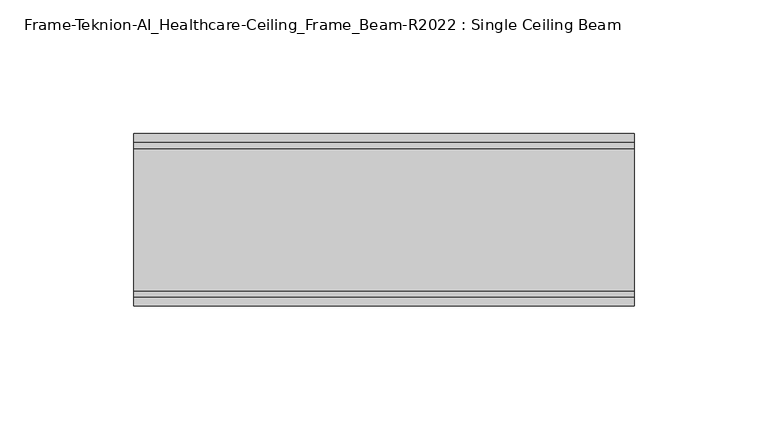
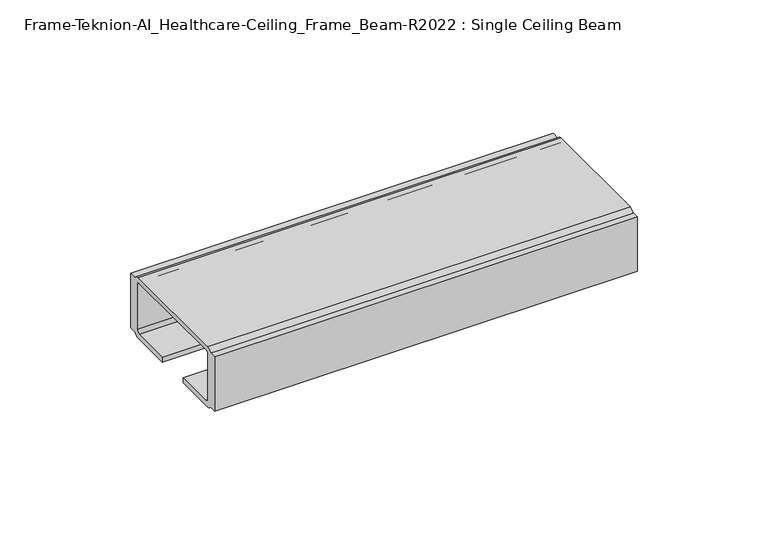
"""IFC4 building model written with IfcOpenShell, lengths in millimetres: furniture geometry, Frame-Teknion-AI_Healthcare-Ceiling_Frame_Beam-R2022 : Single Ceiling Beam."""

import ifcopenshell
import ifcopenshell.guid

model = None  # the IFC model being written
_history = None  # IfcOwnerHistory: only IFC2X3 demands one
_inside = {}  # id of a spatial element -> (the spatial element, [elements in it])
_under = {}  # id of a project, library or spatial element -> (it, [spatial elements below it])
_declared = {}  # id of a project -> (the project, [libraries it declares])
_typed = {}  # id of a type object -> (the type object, [elements of that type])
_made_of = {}  # id of a material, layer set ... -> (it, [elements and type objects made of it])


def new_model(schema):
    """Start an empty IFC model of exactly this schema.

    Asked for "IFC4X3", IfcOpenShell would pick the latest addendum, in which some entities
    have other attributes; the version numbers below select the first issue.
    IFC2X3 requires an IfcOwnerHistory on every rooted entity: one is made here for all.
    """
    global model, _history
    if schema == "IFC4X3":
        model = ifcopenshell.file(schema_version=(4, 3, 0, 0))
    else:
        model = ifcopenshell.file(schema=schema)
    _inside.clear()
    _under.clear()
    _declared.clear()
    _typed.clear()
    _made_of.clear()
    _history = None
    if model.schema == "IFC2X3":
        org = make("IfcOrganization", Name="unknown")
        user = make(
            "IfcPersonAndOrganization",
            ThePerson=make("IfcPerson", FamilyName="unknown"),
            TheOrganization=org,
        )
        app = make(
            "IfcApplication",
            ApplicationDeveloper=org,
            Version="unknown",
            ApplicationFullName="unknown",
            ApplicationIdentifier="unknown",
        )
        _history = make(
            "IfcOwnerHistory",
            OwningUser=user,
            OwningApplication=app,
            ChangeAction="ADDED",
            CreationDate=0,
        )
    return model


def make(cls, **values):
    """One entity of the class cls with the attributes given. An attribute that is None is left unset."""
    return model.create_entity(
        cls, **{name: value for name, value in values.items() if value is not None}
    )


def rooted(cls, **values):
    """An entity with a GlobalId (a new one), such as an element, a storey or a relation."""
    return make(cls, GlobalId=ifcopenshell.guid.new(), OwnerHistory=_history, **values)


def si_unit(unit_type, name, prefix=None):
    """IfcSIUnit, for example si_unit("LENGTHUNIT", "METRE", prefix="MILLI")."""
    return make("IfcSIUnit", UnitType=unit_type, Prefix=prefix, Name=name)


def assignment(units):
    """IfcUnitAssignment: the units of a project."""
    return None if units is None else make("IfcUnitAssignment", Units=units)


def point(xyz):
    """IfcCartesianPoint."""
    return None if xyz is None else make("IfcCartesianPoint", Coordinates=xyz)


def direction(xyz):
    """IfcDirection."""
    return None if xyz is None else make("IfcDirection", DirectionRatios=xyz)


def frame(location, z_axis=None, x_axis=None):
    """IfcAxis2Placement3D, a coordinate frame: its origin and axes. An axis left out is left unset."""
    return make(
        "IfcAxis2Placement3D",
        Location=point(location),
        Axis=direction(z_axis),
        RefDirection=direction(x_axis),
    )


def frame_2d(location, x_axis=None):
    """IfcAxis2Placement2D, a coordinate frame in the plane: its origin and x axis."""
    return make(
        "IfcAxis2Placement2D", Location=point(location), RefDirection=direction(x_axis)
    )


def origin():
    """The frame at (0, 0, 0) with its axes left unset."""
    return frame((0.0, 0.0, 0.0))


def place(relative_to, where):
    """IfcLocalPlacement: puts the frame where relative to a parent placement (None: the world)."""
    return make(
        "IfcLocalPlacement", PlacementRelTo=relative_to, RelativePlacement=where
    )


def context(
    kind, dimensions, precision=None, world=None, true_north=None, identifier=None
):
    """IfcGeometricRepresentationContext, for example the 3D "Model" context."""
    return make(
        "IfcGeometricRepresentationContext",
        ContextIdentifier=identifier,
        ContextType=kind,
        CoordinateSpaceDimension=dimensions,
        Precision=precision,
        WorldCoordinateSystem=world,
        TrueNorth=true_north,
    )


def project(units=None, contexts=None):
    """IfcProject with its units and contexts."""
    return rooted(
        "IfcProject",
        Name="project",
        RepresentationContexts=contexts,
        UnitsInContext=assignment(units),
    )


def spatial(cls, under=None, at=None, **own):
    """A site, building, storey or space (cls), placed at a placement, below another one or the project."""
    s = rooted(cls, ObjectPlacement=at, **own)
    if under is not None:
        _under.setdefault(under.id(), (under, []))[1].append(s)
    return s


def polyline(points):
    """IfcPolyline through the points."""
    return make("IfcPolyline", Points=[point(p) for p in points])


def circle_curve(where, radius):
    """IfcCircle in the frame where."""
    return make("IfcCircle", Position=where, Radius=radius)


def trimmed(basis, trim1, trim2, sense, master):
    """IfcTrimmedCurve: the piece of a basis curve between two trims."""
    return make(
        "IfcTrimmedCurve",
        BasisCurve=basis,
        Trim1=trim1,
        Trim2=trim2,
        SenseAgreement=sense,
        MasterRepresentation=master,
    )


def segment(curve, same_sense, transition):
    """IfcCompositeCurveSegment."""
    return make(
        "IfcCompositeCurveSegment",
        Transition=transition,
        SameSense=same_sense,
        ParentCurve=curve,
    )


def composite_curve(segments, self_intersect=None):
    """IfcCompositeCurve: segments joined end to end."""
    return make("IfcCompositeCurve", Segments=segments, SelfIntersect=self_intersect)


def outline(outer, holes=None, kind="AREA"):
    """IfcArbitraryClosedProfileDef: a profile drawn as a closed curve; with holes, ...WithVoids."""
    if holes is None:
        return make("IfcArbitraryClosedProfileDef", ProfileType=kind, OuterCurve=outer)
    return make(
        "IfcArbitraryProfileDefWithVoids",
        ProfileType=kind,
        OuterCurve=outer,
        InnerCurves=holes,
    )


def extrude(swept, where, along, depth):
    """IfcExtrudedAreaSolid: the profile swept, set in the frame where, extruded along a direction by depth."""
    return make(
        "IfcExtrudedAreaSolid",
        SweptArea=swept,
        Position=where,
        ExtrudedDirection=direction(along),
        Depth=depth,
    )


def shape(context_of_items, identifier, shape_type, items):
    """IfcShapeRepresentation: the items that make up one representation, for example the "Body"."""
    return make(
        "IfcShapeRepresentation",
        ContextOfItems=context_of_items,
        RepresentationIdentifier=identifier,
        RepresentationType=shape_type,
        Items=items,
    )


def source(mapping_origin, context_of_items, identifier, shape_type, items):
    """IfcRepresentationMap: a shape defined once, which mapped items show again and again."""
    return make(
        "IfcRepresentationMap",
        MappingOrigin=mapping_origin,
        MappedRepresentation=shape(context_of_items, identifier, shape_type, items),
    )


def transform(
    local_origin,
    x_axis=None,
    y_axis=None,
    z_axis=None,
    scale=None,
    scale2=None,
    scale3=None,
    uniform=True,
):
    """IfcCartesianTransformationOperator3D, or its non-uniform kind. x_axis, y_axis, z_axis: its Axis1, 2, 3."""
    if uniform:
        return make(
            "IfcCartesianTransformationOperator3D",
            Axis1=direction(x_axis),
            Axis2=direction(y_axis),
            LocalOrigin=point(local_origin),
            Scale=scale,
            Axis3=direction(z_axis),
        )
    return make(
        "IfcCartesianTransformationOperator3DnonUniform",
        Axis1=direction(x_axis),
        Axis2=direction(y_axis),
        LocalOrigin=point(local_origin),
        Scale=scale,
        Axis3=direction(z_axis),
        Scale2=scale2,
        Scale3=scale3,
    )


def mapped(mapping_source, mapping_target):
    """IfcMappedItem: shows the shape of a source again, moved by a transform."""
    return make(
        "IfcMappedItem", MappingSource=mapping_source, MappingTarget=mapping_target
    )


def made_of(thing, what):
    """Note that an element or type object is made of a material, layer set ...; save() writes the relation."""
    if what is not None:
        _made_of.setdefault(what.id(), (what, []))[1].append(thing)
    return thing


def element(
    cls,
    number,
    at=None,
    inside=None,
    cuts=None,
    type_object=None,
    material=None,
    context=None,
    identifier="Body",
    shape_type=None,
    held_by="IfcProductDefinitionShape",
    body=None,
    shapes=None,
    **own,
):
    """One element of the class cls, such as IfcWall. Its Tag is "e" and its number.

    at: its placement. inside: the storey or other place that contains it. cuts: it is an
    opening in that element (IfcRelVoidsElement). A single representation is given by context,
    identifier, shape_type and body (its items); several are given by shapes. held_by: the class
    of the entity that holds the representations. save() writes the other relations.
    """
    e = rooted(cls, Tag="e%d" % number, ObjectPlacement=at, **own)
    if body is not None:
        shapes = [shape(context, identifier, shape_type, body)]
    if shapes is not None:
        e.Representation = make(held_by, Representations=shapes)
    if inside is not None:
        _inside.setdefault(inside.id(), (inside, []))[1].append(e)
    if cuts is not None:
        rooted(
            "IfcRelVoidsElement", RelatingBuildingElement=cuts, RelatedOpeningElement=e
        )
    if type_object is not None:
        _typed.setdefault(type_object.id(), (type_object, []))[1].append(e)
    return made_of(e, material)


def aggregate(whole, parts):
    """IfcRelAggregates: a whole, such as a stair, and the parts it consists of."""
    return rooted("IfcRelAggregates", RelatingObject=whole, RelatedObjects=parts)


def save(model, path):
    """Write the relations noted so far, then the file.

    IfcRelAggregates (storeys below a building ...), IfcRelContainedInSpatialStructure (elements
    in a storey), IfcRelDefinesByType, IfcRelAssociatesMaterial and IfcRelDeclares: one each for
    every whole, place, type object, material and project.
    """
    for whole, parts in _under.values():
        aggregate(whole, parts)
    for where, things in _inside.values():
        rooted(
            "IfcRelContainedInSpatialStructure",
            RelatedElements=things,
            RelatingStructure=where,
        )
    for kind, things in _typed.values():
        rooted("IfcRelDefinesByType", RelatedObjects=things, RelatingType=kind)
    for what, things in _made_of.values():
        rooted("IfcRelAssociatesMaterial", RelatedObjects=things, RelatingMaterial=what)
    for by, libraries in _declared.values():
        rooted("IfcRelDeclares", RelatingContext=by, RelatedDefinitions=libraries)
    model.write(path)


def frame_teknion_ai_healthcare_ceiling_frame_beam_r2022_single_33823d4f(model_context):
    return source(origin(), model_context, "Body", "SweptSolid", [
        extrude(outline(composite_curve([segment(polyline([(-32.174996, 1573.5046), (-32.174996, 1598.9045998), (-28.999999, 1598.9045998), (-28.999999, 1597.787)]), True, "CONTINUOUS"), segment(trimmed(circle_curve(frame_2d((-26.5869991, 1597.787)), 2.413), [point((-28.999999, 1597.787))], [point((-26.5869991, 1600.2))], False, "CARTESIAN"), True, "CONTINUOUS"), segment(polyline([(-26.5869991, 1600.2), (26.5869991, 1600.2)]), True, "CONTINUOUS"), segment(trimmed(circle_curve(frame_2d((26.5869991, 1597.787)), 2.413), [point((26.5869991, 1600.2))], [point((28.999999, 1597.787))], False, "CARTESIAN"), True, "CONTINUOUS"), segment(polyline([(28.999999, 1597.787), (28.999999, 1598.9045998), (32.174996, 1598.9045998), (32.174996, 1573.5046), (28.999999, 1573.5046), (28.999999, 1574.6129989)]), True, "CONTINUOUS"), segment(trimmed(circle_curve(frame_2d((26.5869991, 1574.6129989)), 2.413), [point((28.999999, 1574.6129989))], [point((26.5869991, 1572.199999))], False, "CARTESIAN"), True, "CONTINUOUS"), segment(polyline([(26.5869991, 1572.199999), (7.9374947, 1572.199999), (7.9374947, 1574.4859991), (25.4440002, 1574.4859991)]), True, "CONTINUOUS"), segment(trimmed(circle_curve(frame_2d((25.4440002, 1576.0099999)), 1.5240008), [point((25.4440002, 1574.4859991))], [point((26.968001, 1576.0099999))], True, "CARTESIAN"), True, "CONTINUOUS"), segment(polyline([(26.968001, 1576.0099999), (26.968001, 1597.1520009)]), True, "CONTINUOUS"), segment(trimmed(circle_curve(frame_2d((25.9520019, 1597.1520009)), 1.015999), [point((26.968001, 1597.1520009))], [point((25.9520019, 1598.168))], True, "CARTESIAN"), True, "CONTINUOUS"), segment(polyline([(25.9520019, 1598.168), (-25.9520019, 1598.168)]), True, "CONTINUOUS"), segment(trimmed(circle_curve(frame_2d((-25.9520019, 1597.1520009)), 1.015999), [point((-25.9520019, 1598.168))], [point((-26.968001, 1597.1520009))], True, "CARTESIAN"), True, "CONTINUOUS"), segment(polyline([(-26.968001, 1597.1520009), (-26.968001, 1576.0099999)]), True, "CONTINUOUS"), segment(trimmed(circle_curve(frame_2d((-25.4440002, 1576.0099999)), 1.5240008), [point((-26.968001, 1576.0099999))], [point((-25.4440002, 1574.4859991))], True, "CARTESIAN"), True, "CONTINUOUS"), segment(polyline([(-25.4440002, 1574.4859991), (-7.9374947, 1574.4859991), (-7.9374947, 1572.199999), (-26.5869991, 1572.199999)]), True, "CONTINUOUS"), segment(trimmed(circle_curve(frame_2d((-26.5869991, 1574.6129989)), 2.413), [point((-26.5869991, 1572.199999))], [point((-28.999999, 1574.6129989))], False, "CARTESIAN"), True, "CONTINUOUS"), segment(polyline([(-28.999999, 1574.6129989), (-28.999999, 1573.5046), (-32.174996, 1573.5046)]), True, "CONTINUOUS")], self_intersect=False)), frame((-93.3704, 0.0, 0.0), z_axis=(1.0, 0.0, 0.0), x_axis=(0.0, 1.0, 0.0)), (0.0, 0.0, 1.0), 186.7408),
    ])


if __name__ == "__main__":
    model = new_model("IFC4")
    model_context = context("Model", 3, world=origin())
    ifc_project = project(units=[si_unit("LENGTHUNIT", "METRE", prefix="MILLI")], contexts=[model_context])
    site = spatial("IfcSite", under=ifc_project)
    building = spatial("IfcBuilding", under=site)
    placement = place(None, origin())
    frame_teknion_ai_healthcare_ceiling_frame_beam_r2022_single_shape = frame_teknion_ai_healthcare_ceiling_frame_beam_r2022_single_33823d4f(model_context)
    element("IfcFurniture", 1, ObjectType="Frame-Teknion-AI_Healthcare-Ceiling_Frame_Beam-R2022 : Single Ceiling Beam", at=placement, inside=building, context=model_context, shape_type="MappedRepresentation", body=[
        mapped(frame_teknion_ai_healthcare_ceiling_frame_beam_r2022_single_shape, transform((0.0, 0.0, 0.0), x_axis=(1.0, 0.0, 0.0), y_axis=(0.0, 1.0, 0.0), z_axis=(0.0, 0.0, 1.0))),
    ])
    save(model, "model.ifc")
